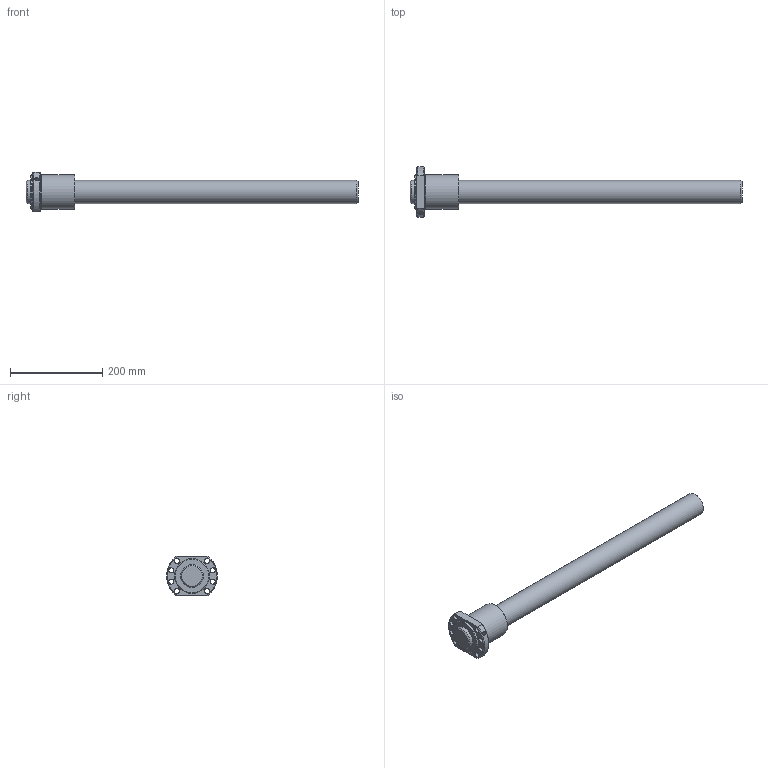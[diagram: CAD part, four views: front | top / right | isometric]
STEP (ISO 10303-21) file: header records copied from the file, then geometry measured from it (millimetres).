
FILE_DESCRIPTION(/* description */ ('STEP AP214'),/* implementation_level */ '2;1');
FILE_NAME(/* name */ 'EBB5010-4RRG0+720LC0-ebb2(604G000)-ebb2',/* time_stamp */ '2023-08-03T12:52:53+02:00',/* author */ ('License CC BY-ND 4.0'),/* organization */ ('CADENAS'),/* preprocessor_version */ 'ST-DEVELOPER v19.3',/* originating_system */ 'PARTsolutions',/* authorisation */ ' ');
FILE_SCHEMA (('AUTOMOTIVE_DESIGN {1 0 10303 214 3 1 1}'));
Length unit declared in the file: millimetre
Products named in the file (3): EBB5010-4RRG0+720LC0-ebb2(604G000)-ebb2; EBB 5010-4RR Nut2; EBB 5010-46040 Shaft2
Assembly tree (2 placements, depth 2):
  EBB5010-4RRG0+720LC0-ebb2(604G000)-ebb2
    EBB 5010-4RR Nut2
    EBB 5010-46040 Shaft2
Bounding box: 720 x 109.65 x 85 mm (x, y, z)
Volume: 1694893.5 mm3; surface area: 172167.5 mm2
Topology: 2 solids, 2 shells, 34 faces, 77 edges, 50 vertices
Faces by surface type: cylinder 16, cone 9, plane 9
Full cylindrical faces by diameter (mm): 6.647 x1, 11 x8, 50 x2, 70.5 x1, 75 x2
Entity records: 1003 total; most frequent: CARTESIAN_POINT 187, DIRECTION 160, ORIENTED_EDGE 114, EDGE_LOOP 76, FACE_BOUND 76, AXIS2_PLACEMENT_3D 76, EDGE_CURVE 57, VERTEX_POINT 49
